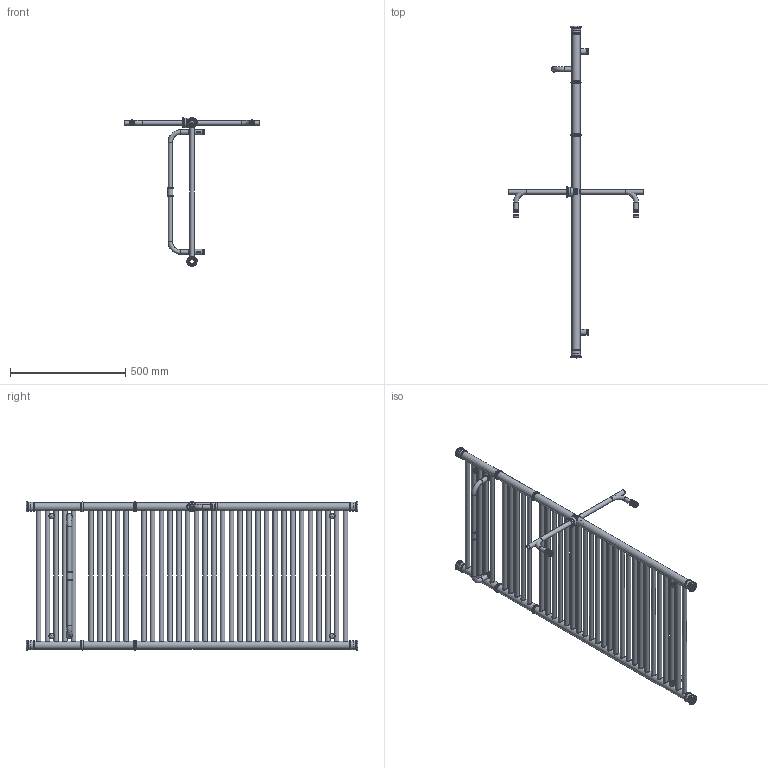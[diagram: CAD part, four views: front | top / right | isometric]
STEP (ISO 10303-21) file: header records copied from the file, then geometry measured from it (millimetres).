
FILE_DESCRIPTION( ( 'Unknown' ), '1' );
FILE_NAME( 'D:/Alplast sp. j/Witryna zespoBu - Projekty/Archiwum/Grzejniki Archiwum/Projekty/DESIGN PROGRAM/RETRO/Retro A6-600.stp', 'Unknown', ( 'Unknown' ), ( 'Unknown' ), 'PSStep 10.1', 'Unknown', ' ' );
FILE_SCHEMA( ( 'AUTOMOTIVE_DESIGN { 1 0 10303 214 1 1 1 1 }' ) );
Length unit declared in the file: millimetre
Products named in the file (65): mocowanie do œciany; katurek z wkrêtem do mocowania do  sciany; Assem1; suszarka Retro 600; Katurek fi 25 v4 ; wkrêt do katurka fi 25 v4; tulejka do mocowania grzejnika v3; mocowanie do grzejnika v3; zaœlepka do mocowania do œciany; detal-v3. par; element do suszarki do mocowania; element do suszarki do mocowania-oa43; tulejka do suszarki ; tulejka do suszarki -oa44; element do suszarki do mocowania ty³; element do suszarki do mocowania ty³-oa45; suszarka 600; Zaslepka fi 35 z gwintem ; Zaslepka fi 35 z gwintem -oa0; Zaslepka fi 35 z gwintem -oa1; Zaslepka fi 35 z gwintem -oa2; kolektor Retro A6; kolektor Retro A6-oa3; Kana³ Prosty Retro 600; Kana³ Prosty Retro 600-oa4; Kana³ Prosty Retro 600-oa5; Kana³ Prosty Retro 600-oa6; Kana³ Prosty Retro 600-oa7; Kana³ Prosty Retro 600-oa8; Kana³ Prosty Retro 600-oa9; Kana³ Prosty Retro 600-oa10; Kana³ Prosty Retro 600-oa11; Kana³ Prosty Retro 600-oa12; Kana³ Prosty Retro 600-oa13; Kana³ Prosty Retro 600-oa14; Kana³ Prosty Retro 600-oa15; Kana³ Prosty Retro 600-oa16; Kana³ Prosty Retro 600-oa17; Kana³ Prosty Retro 600-oa18; Kana³ Prosty Retro 600-oa19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
Bounding box: 584 x 1438 x 644.91 mm (x, y, z)
Volume: 4035778.5 mm3; surface area: 6323737.9 mm2
Topology: 152 solids, 152 shells, 1204 faces, 2428 edges, 1562 vertices
Faces by surface type: cylinder 538, plane 362, torus 201, cone 84, bspline 12, sphere 7
Full cylindrical faces by diameter (mm): 4.917 x24, 5.9 x6, 6 x27, 6.3 x6, 6.4 x6, 15.5 x6, 17.5 x6, 17.6 x77, 18.631 x8, 20 x77, 20.3 x3, 20.5 x136, 20.6 x6, 21.15 x6, 21.9 x18, 22.8 x3, 24.5 x6, 25 x21, 25.25 x6, 25.3 x6, 32 x8, 32.4 x4, 35 x12, 35.3 x8, 35.5 x8, 39 x16, 41.15 x16
Entity records: 27967 total; most frequent: CARTESIAN_POINT 14727, DIRECTION 1828, ORIENTED_EDGE 1070, EDGE_LOOP 1052, AXIS2_PLACEMENT_3D 910, FACE_OUTER_BOUND 751, EDGE_CURVE 535, VERTEX_POINT 532
